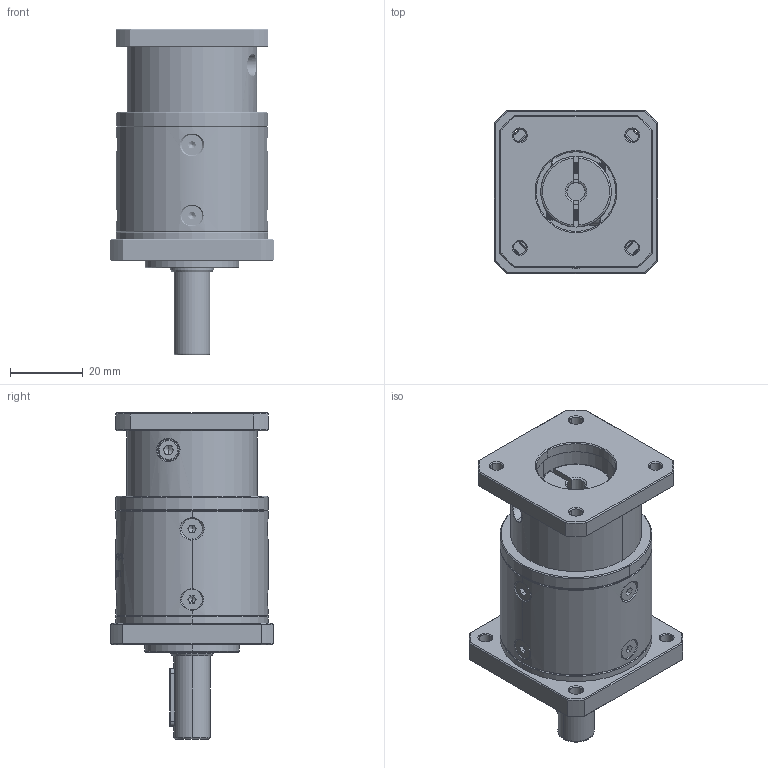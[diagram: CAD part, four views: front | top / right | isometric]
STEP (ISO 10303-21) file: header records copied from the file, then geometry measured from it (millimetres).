
FILE_DESCRIPTION (( 'STEP AP214' ), '1' );
FILE_NAME ('ZF040-D10-L1-P2-5-22-31X31-¦Õ3.5.STEP', '2023-08-15T11:03:06', ( '' ), ( '' ), 'SwSTEP 2.0', 'SolidWorks 2016', '' );
FILE_SCHEMA (( 'AUTOMOTIVE_DESIGN' ));
Length unit declared in the file: millimetre
Products named in the file (1): ZF040-D10-L1-P2-5-22-31X31-耳3.5
Bounding box: 45 x 45 x 90 mm (x, y, z)
Volume: 83865.5 mm3; surface area: 25379.2 mm2
Topology: 14 solids, 14 shells, 1246 faces, 3051 edges, 1913 vertices
Faces by surface type: plane 359, cone 324, cylinder 300, bspline 233, torus 30
Entity records: 90691 total; most frequent: CARTESIAN_POINT 48716, ORIENTED_EDGE 6058, DIRECTION 5461, EDGE_CURVE 3029, AXIS2_PLACEMENT_3D 2069, VERTEX_POINT 1913, EDGE_LOOP 1382, VECTOR 1323
